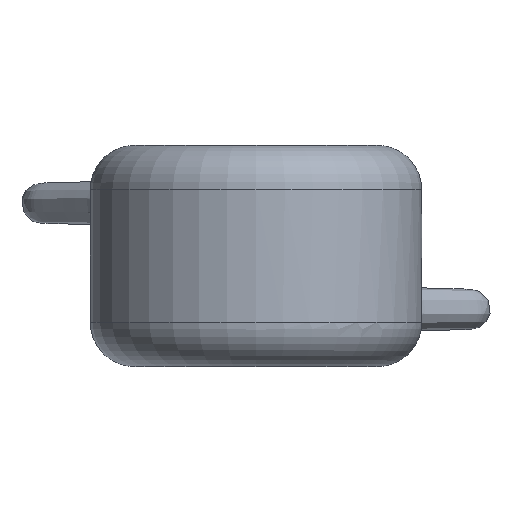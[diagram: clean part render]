
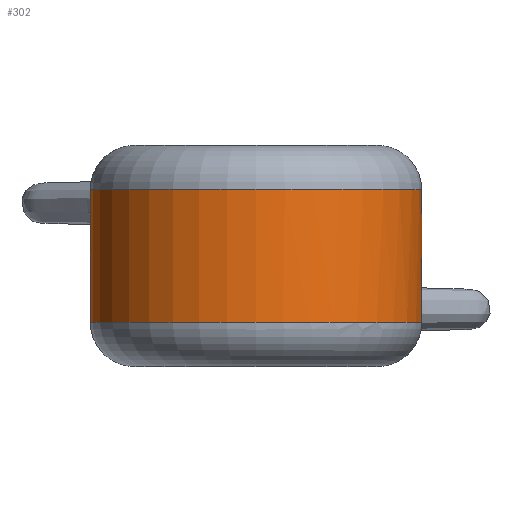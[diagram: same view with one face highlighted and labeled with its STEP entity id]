
A CAD part, top view. The second image highlights one B-rep face of the part: STEP entity #302.
In plain terms, the highlighted cylindrical face has radius 3.75 mm (diameter 7.5 mm), a full revolution.
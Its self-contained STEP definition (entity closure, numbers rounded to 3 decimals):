
#24=B_SPLINE_CURVE_WITH_KNOTS('',3,(#902,#903,#904,#905,#906,#907,#908,
#909,#910,#911),.UNSPECIFIED.,.F.,.F.,(4,1,1,1,1,1,1,4),(-0.254,
-0.217,-0.199,-0.145,-0.109,
-0.072,-0.036,0.),.UNSPECIFIED.);
#26=B_SPLINE_CURVE_WITH_KNOTS('',3,(#973,#974,#975,#976,#977,#978,#979,
#980,#981,#982),.UNSPECIFIED.,.F.,.F.,(4,1,1,1,1,1,1,4),(-0.254,
-0.217,-0.181,-0.145,-0.109,
-0.072,-0.036,0.),.UNSPECIFIED.);
#72=FACE_OUTER_BOUND('',#92,.T.);
#92=EDGE_LOOP('',(#241,#242,#243,#244,#245,#246,#247,#248,#249,#250));
#105=LINE('',#967,#108);
#108=VECTOR('',#407,3.75);
#120=CIRCLE('',#347,3.75);
#121=CIRCLE('',#348,3.75);
#122=CIRCLE('',#349,3.75);
#123=CIRCLE('',#351,3.75);
#124=CIRCLE('',#352,3.75);
#125=CIRCLE('',#353,3.75);
#143=VERTEX_POINT('',#898);
#144=VERTEX_POINT('',#900);
#147=VERTEX_POINT('',#959);
#148=VERTEX_POINT('',#962);
#149=VERTEX_POINT('',#966);
#150=VERTEX_POINT('',#968);
#151=VERTEX_POINT('',#970);
#152=VERTEX_POINT('',#972);
#176=EDGE_CURVE('',#143,#144,#24,.T.);
#181=EDGE_CURVE('',#144,#147,#120,.T.);
#182=EDGE_CURVE('',#148,#143,#121,.T.);
#183=EDGE_CURVE('',#147,#148,#122,.T.);
#184=EDGE_CURVE('',#148,#149,#105,.T.);
#185=EDGE_CURVE('',#149,#150,#123,.T.);
#186=EDGE_CURVE('',#150,#151,#124,.T.);
#187=EDGE_CURVE('',#151,#152,#26,.T.);
#188=EDGE_CURVE('',#152,#149,#125,.T.);
#241=ORIENTED_EDGE('',*,*,#176,.T.);
#242=ORIENTED_EDGE('',*,*,#181,.T.);
#243=ORIENTED_EDGE('',*,*,#183,.T.);
#244=ORIENTED_EDGE('',*,*,#184,.T.);
#245=ORIENTED_EDGE('',*,*,#185,.T.);
#246=ORIENTED_EDGE('',*,*,#186,.T.);
#247=ORIENTED_EDGE('',*,*,#187,.T.);
#248=ORIENTED_EDGE('',*,*,#188,.T.);
#249=ORIENTED_EDGE('',*,*,#184,.F.);
#250=ORIENTED_EDGE('',*,*,#182,.T.);
#292=CYLINDRICAL_SURFACE('',#350,3.75);
#302=ADVANCED_FACE('',(#72),#292,.T.);
#347=AXIS2_PLACEMENT_3D('',#961,#399,#400);
#348=AXIS2_PLACEMENT_3D('',#963,#401,#402);
#349=AXIS2_PLACEMENT_3D('',#964,#403,#404);
#350=AXIS2_PLACEMENT_3D('',#965,#405,#406);
#351=AXIS2_PLACEMENT_3D('',#969,#408,#409);
#352=AXIS2_PLACEMENT_3D('',#971,#410,#411);
#353=AXIS2_PLACEMENT_3D('',#983,#412,#413);
#399=DIRECTION('center_axis',(0.,-1.,0.));
#400=DIRECTION('ref_axis',(-1.,0.,0.));
#401=DIRECTION('center_axis',(0.,-1.,0.));
#402=DIRECTION('ref_axis',(-1.,0.,0.));
#403=DIRECTION('center_axis',(0.,-1.,0.));
#404=DIRECTION('ref_axis',(-1.,0.,0.));
#405=DIRECTION('center_axis',(0.,-1.,0.));
#406=DIRECTION('ref_axis',(1.,0.,0.));
#407=DIRECTION('',(0.,-1.,0.));
#408=DIRECTION('center_axis',(0.,1.,0.));
#409=DIRECTION('ref_axis',(-1.,0.,0.));
#410=DIRECTION('center_axis',(0.,1.,0.));
#411=DIRECTION('ref_axis',(-1.,0.,0.));
#412=DIRECTION('center_axis',(0.,1.,0.));
#413=DIRECTION('ref_axis',(-1.,0.,0.));
#898=CARTESIAN_POINT('',(-3.465,1.5,-1.435));
#900=CARTESIAN_POINT('',(-2.94,1.5,-2.328));
#902=CARTESIAN_POINT('Ctrl Pts',(-3.465,1.5,-1.435));
#903=CARTESIAN_POINT('Ctrl Pts',(-3.489,1.398,-1.377));
#904=CARTESIAN_POINT('Ctrl Pts',(-3.505,1.214,-1.333));
#905=CARTESIAN_POINT('Ctrl Pts',(-3.473,0.856,-1.417));
#906=CARTESIAN_POINT('Ctrl Pts',(-3.359,0.601,-1.689));
#907=CARTESIAN_POINT('Ctrl Pts',(-3.141,0.593,-2.059));
#908=CARTESIAN_POINT('Ctrl Pts',(-2.957,0.797,-2.31));
#909=CARTESIAN_POINT('Ctrl Pts',(-2.867,1.149,-2.416));
#910=CARTESIAN_POINT('Ctrl Pts',(-2.903,1.396,-2.375));
#911=CARTESIAN_POINT('Ctrl Pts',(-2.94,1.5,-2.328));
#959=CARTESIAN_POINT('',(0.,1.5,-3.75));
#961=CARTESIAN_POINT('Origin',(0.,1.5,0.));
#962=CARTESIAN_POINT('',(-3.75,1.5,0.));
#963=CARTESIAN_POINT('Origin',(0.,1.5,0.));
#964=CARTESIAN_POINT('Origin',(0.,1.5,0.));
#965=CARTESIAN_POINT('Origin',(0.,0.,0.));
#966=CARTESIAN_POINT('',(-3.75,-1.5,0.));
#967=CARTESIAN_POINT('',(-3.75,0.,0.));
#968=CARTESIAN_POINT('',(0.,-1.5,3.75));
#969=CARTESIAN_POINT('Origin',(0.,-1.5,0.));
#970=CARTESIAN_POINT('',(3.465,-1.5,-1.435));
#971=CARTESIAN_POINT('Origin',(0.,-1.5,0.));
#972=CARTESIAN_POINT('',(2.94,-1.5,-2.328));
#973=CARTESIAN_POINT('Ctrl Pts',(3.465,-1.5,-1.435));
#974=CARTESIAN_POINT('Ctrl Pts',(3.489,-1.398,-1.377));
#975=CARTESIAN_POINT('Ctrl Pts',(3.51,-1.15,-1.318));
#976=CARTESIAN_POINT('Ctrl Pts',(3.457,-0.802,-1.46));
#977=CARTESIAN_POINT('Ctrl Pts',(3.327,-0.601,-1.741));
#978=CARTESIAN_POINT('Ctrl Pts',(3.142,-0.592,-2.058));
#979=CARTESIAN_POINT('Ctrl Pts',(2.957,-0.797,-2.31));
#980=CARTESIAN_POINT('Ctrl Pts',(2.867,-1.149,-2.416));
#981=CARTESIAN_POINT('Ctrl Pts',(2.903,-1.396,-2.375));
#982=CARTESIAN_POINT('Ctrl Pts',(2.94,-1.5,-2.328));
#983=CARTESIAN_POINT('Origin',(0.,-1.5,0.));
